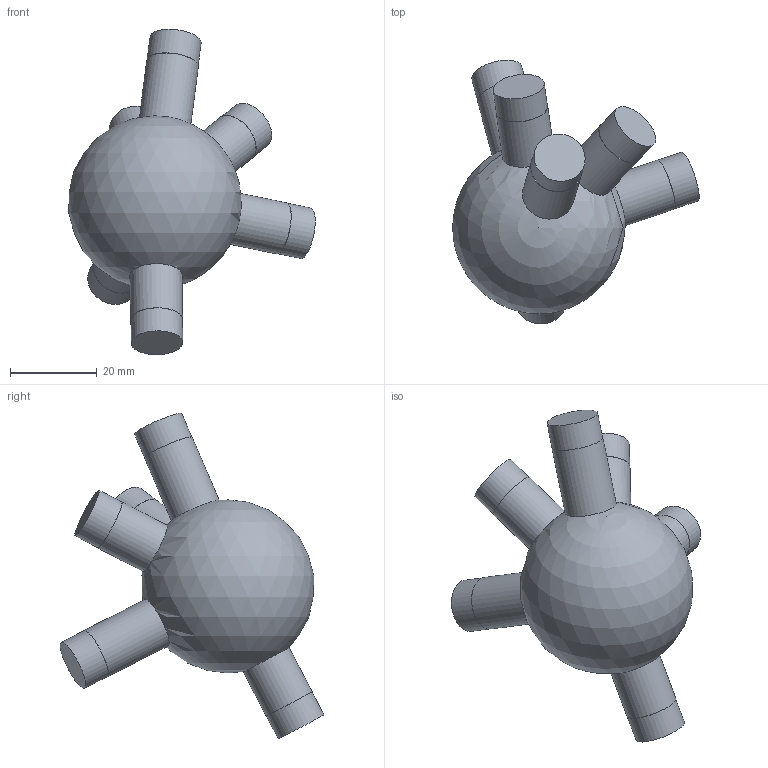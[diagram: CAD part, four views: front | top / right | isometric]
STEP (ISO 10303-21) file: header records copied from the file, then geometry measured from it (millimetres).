
FILE_DESCRIPTION(('Open CASCADE Model'),'2;1');
FILE_NAME('Open CASCADE Shape Model','2026-10-21T12:47:57',('Author'),( 'Open CASCADE'),'Open CASCADE STEP processor 7.9','Open CASCADE 7.9' ,'Unknown');
FILE_SCHEMA(('AUTOMOTIVE_DESIGN { 1 0 10303 214 1 1 1 1 }'));
Length unit declared in the file: millimetre
Products named in the file (1): Open CASCADE STEP translator 7.9 68
Bounding box: 56.96 x 60.92 x 75.17 mm (x, y, z)
Volume: 46234.8 mm3; surface area: 9368.3 mm2
Topology: 1 solids, 1 shells, 25 faces, 39 edges, 26 vertices
Faces by surface type: cylinder 12, plane 12, sphere 1
Full cylindrical faces by diameter (mm): 11.9 x6, 12 x6
Entity records: 1464 total; most frequent: CARTESIAN_POINT 599, DIRECTION 178, ORIENTED_EDGE 72, PCURVE 72, DEFINITIONAL_REPRESENTATION 72, LINE 60, VECTOR 60, AXIS2_PLACEMENT_3D 50
